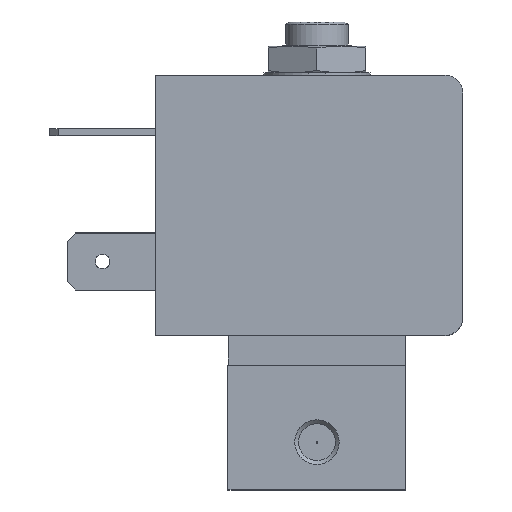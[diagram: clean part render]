
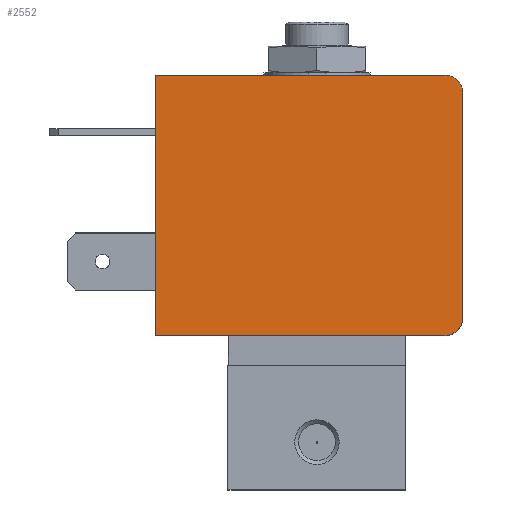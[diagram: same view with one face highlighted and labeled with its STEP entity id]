
A CAD part, top view. The second image highlights one B-rep face of the part: STEP entity #2552.
In plain terms, the highlighted planar face has unit normal (0, 0, 1).
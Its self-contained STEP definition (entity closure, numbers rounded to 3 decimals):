
#86=CIRCLE('',#2672,2.);
#88=CIRCLE('',#2676,2.);
#188=ORIENTED_EDGE('',*,*,#627,.T.);
#189=ORIENTED_EDGE('',*,*,#652,.T.);
#190=ORIENTED_EDGE('',*,*,#659,.T.);
#191=ORIENTED_EDGE('',*,*,#662,.T.);
#192=ORIENTED_EDGE('',*,*,#665,.T.);
#193=ORIENTED_EDGE('',*,*,#667,.T.);
#627=EDGE_CURVE('',#871,#870,#1039,.T.);
#652=EDGE_CURVE('',#870,#894,#1061,.T.);
#659=EDGE_CURVE('',#894,#900,#1068,.T.);
#662=EDGE_CURVE('',#900,#902,#86,.T.);
#665=EDGE_CURVE('',#902,#904,#1072,.T.);
#667=EDGE_CURVE('',#904,#871,#88,.T.);
#870=VERTEX_POINT('',#3344);
#871=VERTEX_POINT('',#3346);
#894=VERTEX_POINT('',#3394);
#900=VERTEX_POINT('',#3408);
#902=VERTEX_POINT('',#3414);
#904=VERTEX_POINT('',#3420);
#1039=LINE('',#3345,#1201);
#1061=LINE('',#3395,#1223);
#1068=LINE('',#3409,#1230);
#1072=LINE('',#3421,#1234);
#1201=VECTOR('',#2840,1000.);
#1223=VECTOR('',#2870,1000.);
#1230=VECTOR('',#2879,1000.);
#1234=VECTOR('',#2891,1000.);
#1373=EDGE_LOOP('',(#188,#189,#190,#191,#192,#193));
#1531=FACE_BOUND('',#1373,.T.);
#1681=PLANE('',#2677);
#2552=ADVANCED_FACE('',(#1531),#1681,.T.);
#2672=AXIS2_PLACEMENT_3D('',#3415,#2885,#2886);
#2676=AXIS2_PLACEMENT_3D('',#3424,#2896,#2897);
#2677=AXIS2_PLACEMENT_3D('',#3425,#2898,#2899);
#2840=DIRECTION('',(-1.,0.,0.));
#2870=DIRECTION('',(0.,-1.,0.));
#2879=DIRECTION('',(1.,0.,0.));
#2885=DIRECTION('',(0.,0.,1.));
#2886=DIRECTION('',(1.,0.,0.));
#2891=DIRECTION('',(0.,1.,0.));
#2896=DIRECTION('',(0.,0.,1.));
#2897=DIRECTION('',(1.,0.,0.));
#2898=DIRECTION('',(0.,0.,1.));
#2899=DIRECTION('',(1.,0.,0.));
#3344=CARTESIAN_POINT('',(-18.1,29.25,12.3));
#3345=CARTESIAN_POINT('',(14.4,29.25,12.3));
#3346=CARTESIAN_POINT('',(14.4,29.25,12.3));
#3394=CARTESIAN_POINT('',(-18.1,0.,12.3));
#3395=CARTESIAN_POINT('',(-18.1,29.25,12.3));
#3408=CARTESIAN_POINT('',(14.4,0.,12.3));
#3409=CARTESIAN_POINT('',(-18.1,0.,12.3));
#3414=CARTESIAN_POINT('',(16.4,2.,12.3));
#3415=CARTESIAN_POINT('',(14.4,2.,12.3));
#3420=CARTESIAN_POINT('',(16.4,27.25,12.3));
#3421=CARTESIAN_POINT('',(16.4,2.,12.3));
#3424=CARTESIAN_POINT('',(14.4,27.25,12.3));
#3425=CARTESIAN_POINT('',(14.4,2.,12.3));
